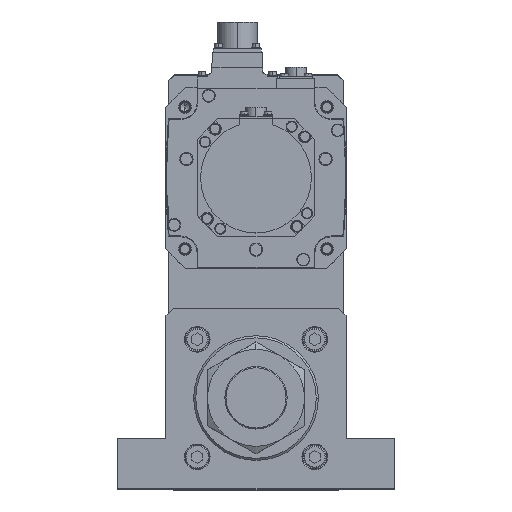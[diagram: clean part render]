
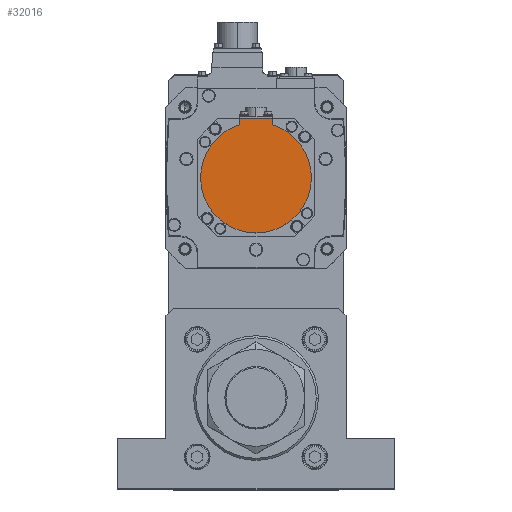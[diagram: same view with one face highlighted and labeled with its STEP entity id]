
A CAD part, top view. The second image highlights one B-rep face of the part: STEP entity #32016.
In plain terms, the highlighted planar face has unit normal (0, 0, 1) as drawn and (0, 0, -1) by its records, which use the part's own axes.
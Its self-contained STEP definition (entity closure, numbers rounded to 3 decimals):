
#873 = CARTESIAN_POINT ( 'NONE',  ( -12., -40.329, -181. ) ) ;
#967 = EDGE_LOOP ( 'NONE', ( #36096, #14995, #31138, #35494, #3415, #38186 ) ) ;
#1141 = DIRECTION ( 'NONE',  ( 1., 0., 0. ) ) ;
#1804 = VECTOR ( 'NONE', #25367, 1000. ) ;
#1993 = AXIS2_PLACEMENT_3D ( 'NONE', #27923, #30847, #7616 ) ;
#3415 = ORIENTED_EDGE ( 'NONE', *, *, #13298, .F. ) ;
#4152 = LINE ( 'NONE', #4431, #1804 ) ;
#4431 = CARTESIAN_POINT ( 'NONE',  ( 0., -42.5, -181. ) ) ;
#4550 = VERTEX_POINT ( 'NONE', #25849 ) ;
#4830 = CIRCLE ( 'NONE', #16691, 40. ) ;
#5487 = AXIS2_PLACEMENT_3D ( 'NONE', #25059, #16292, #1141 ) ;
#5988 = CARTESIAN_POINT ( 'NONE',  ( -40., 0., -181. ) ) ;
#7616 = DIRECTION ( 'NONE',  ( 1., 0., 0. ) ) ;
#9773 = EDGE_CURVE ( 'NONE', #38315, #11398, #30680, .T. ) ;
#9887 = CARTESIAN_POINT ( 'NONE',  ( 12., -42.5, -181. ) ) ;
#10026 = EDGE_CURVE ( 'NONE', #4550, #38315, #4830, .T. ) ;
#11230 = LINE ( 'NONE', #873, #24233 ) ;
#11398 = VERTEX_POINT ( 'NONE', #23256 ) ;
#13298 = EDGE_CURVE ( 'NONE', #13903, #28683, #19675, .T. ) ;
#13903 = VERTEX_POINT ( 'NONE', #9887 ) ;
#13977 = CARTESIAN_POINT ( 'NONE',  ( 12., -1.25, -181. ) ) ;
#14482 = EDGE_CURVE ( 'NONE', #28683, #4550, #22431, .T. ) ;
#14822 = EDGE_CURVE ( 'NONE', #33492, #11398, #11230, .T. ) ;
#14995 = ORIENTED_EDGE ( 'NONE', *, *, #9773, .F. ) ;
#16045 = DIRECTION ( 'NONE',  ( 0., 1., 0. ) ) ;
#16110 = CARTESIAN_POINT ( 'NONE',  ( -12., -42.5, -181. ) ) ;
#16292 = DIRECTION ( 'NONE',  ( 0., 0., 1. ) ) ;
#16691 = AXIS2_PLACEMENT_3D ( 'NONE', #18358, #21695, #17023 ) ;
#17002 = DIRECTION ( 'NONE',  ( 0., 1., 0. ) ) ;
#17023 = DIRECTION ( 'NONE',  ( 1., 0., 0. ) ) ;
#17024 = CARTESIAN_POINT ( 'NONE',  ( 0., -1.25, -181. ) ) ;
#17147 = DIRECTION ( 'NONE',  ( 0., 0., 1. ) ) ;
#17662 = AXIS2_PLACEMENT_3D ( 'NONE', #17024, #17147, #28731 ) ;
#18358 = CARTESIAN_POINT ( 'NONE',  ( 0., 0., -181. ) ) ;
#19675 = LINE ( 'NONE', #13977, #26564 ) ;
#21695 = DIRECTION ( 'NONE',  ( 0., 0., 1. ) ) ;
#22431 = CIRCLE ( 'NONE', #1993, 40. ) ;
#23045 = FACE_OUTER_BOUND ( 'NONE', #967, .T. ) ;
#23256 = CARTESIAN_POINT ( 'NONE',  ( -12., -38.158, -181. ) ) ;
#24233 = VECTOR ( 'NONE', #16045, 1000. ) ;
#25059 = CARTESIAN_POINT ( 'NONE',  ( 0., 0., -181. ) ) ;
#25367 = DIRECTION ( 'NONE',  ( -1., 0., 0. ) ) ;
#25531 = CARTESIAN_POINT ( 'NONE',  ( 12., -38.158, -181. ) ) ;
#25849 = CARTESIAN_POINT ( 'NONE',  ( 40., 0., -181. ) ) ;
#26564 = VECTOR ( 'NONE', #17002, 1000. ) ;
#27923 = CARTESIAN_POINT ( 'NONE',  ( 0., 0., -181. ) ) ;
#28683 = VERTEX_POINT ( 'NONE', #25531 ) ;
#28731 = DIRECTION ( 'NONE',  ( 1., 0., 0. ) ) ;
#30680 = CIRCLE ( 'NONE', #5487, 40. ) ;
#30847 = DIRECTION ( 'NONE',  ( 0., 0., 1. ) ) ;
#31138 = ORIENTED_EDGE ( 'NONE', *, *, #10026, .F. ) ;
#32016 = ADVANCED_FACE ( 'NONE', ( #23045 ), #38021, .F. ) ;
#33492 = VERTEX_POINT ( 'NONE', #16110 ) ;
#35431 = EDGE_CURVE ( 'NONE', #13903, #33492, #4152, .T. ) ;
#35494 = ORIENTED_EDGE ( 'NONE', *, *, #14482, .F. ) ;
#36096 = ORIENTED_EDGE ( 'NONE', *, *, #14822, .T. ) ;
#38021 = PLANE ( 'NONE',  #17662 ) ;
#38186 = ORIENTED_EDGE ( 'NONE', *, *, #35431, .T. ) ;
#38315 = VERTEX_POINT ( 'NONE', #5988 ) ;
